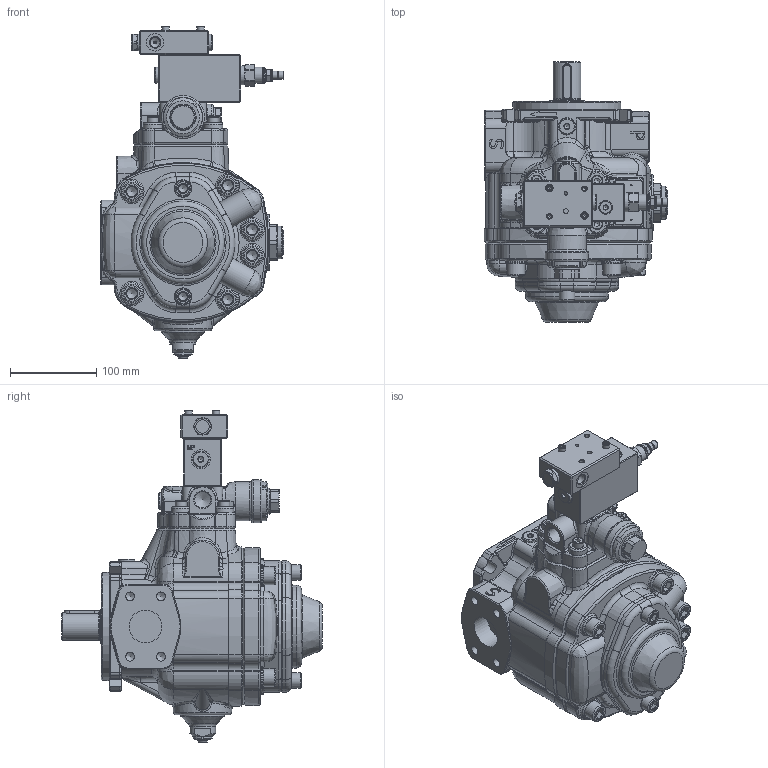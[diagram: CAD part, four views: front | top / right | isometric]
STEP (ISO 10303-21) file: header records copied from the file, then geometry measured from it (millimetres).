
FILE_DESCRIPTION(/* description */ (''),/* implementation_level */ '2;1');
FILE_NAME(/* name */ 'W:\Tecnico\Archivio\Berarma\Dimensioni Pompe\3D Export\Montaggio 3D semplificato\PLP-PHP 2\PHP 2 - A PCLS003.stp',/* time_stamp */ '2018-10-09T16:39:48+02:00',/* author */ ('marcop'),/* organization */ (''),/* preprocessor_version */ 'ST-DEVELOPER v17',/* originating_system */ 'Autodesk Inventor 2018',/* authorisation */ '');
FILE_SCHEMA (('AUTOMOTIVE_DESIGN { 1 0 10303 214 3 1 1 }'));
Products named in the file (1): PLP - PHP 2_Shrinkwrap_1
Bounding box: 212.33 x 301.5 x 384.1 mm (x, y, z)
Volume: 5206244.9 mm3; surface area: 467615 mm2
Topology: 1 solids, 1 shells, 2460 faces, 6361 edges, 3966 vertices
Faces by surface type: plane 942, cylinder 565, bspline 431, cone 257, torus 231, sphere 34
Full cylindrical faces by diameter (mm): 0.9 x3, 1.7 x4, 2.5 x3, 3 x1, 4 x4, 4.134 x2, 5 x7, 5.5 x5, 6 x3, 6.5 x3, 7.2 x13, 7.671 x2, 8 x2, 8.376 x4, 8.5 x2, 8.566 x2, 9.347 x2, 9.5 x1, 10 x1, 10.106 x4, 11.445 x4, 12 x5, 13 x4, 13.487 x1, 13.5 x1, 13.767 x2, 14 x3, 14.224 x1, 14.63 x1, 15.5 x2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
Entity records: 93264 total; most frequent: CARTESIAN_POINT 33259, ORIENTED_EDGE 12588, DIRECTION 11421, EDGE_CURVE 6294, AXIS2_PLACEMENT_3D 4461, VERTEX_POINT 3966, EDGE_LOOP 2672, LINE 2499
